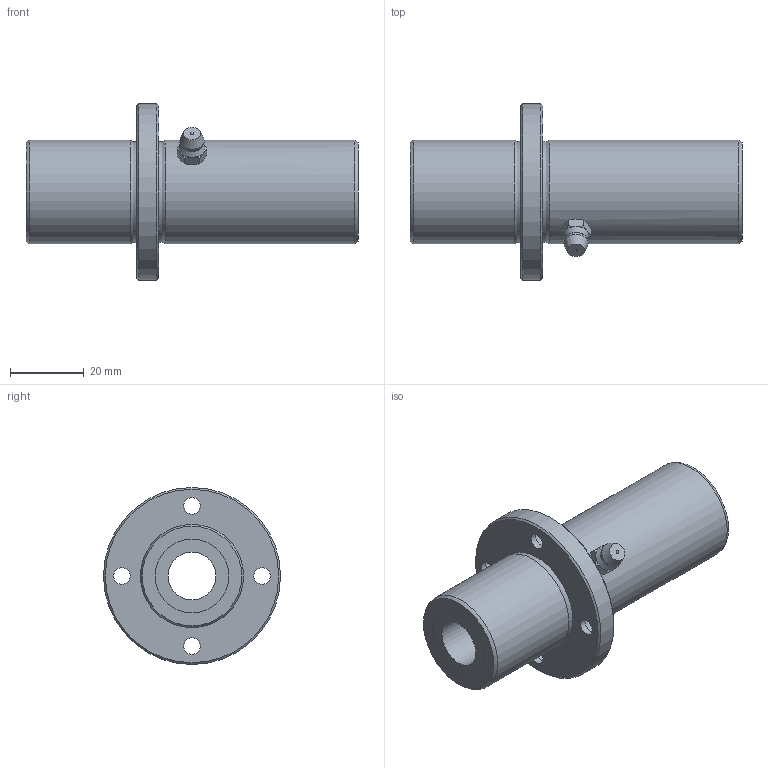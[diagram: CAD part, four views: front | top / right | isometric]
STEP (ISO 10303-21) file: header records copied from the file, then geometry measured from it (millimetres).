
FILE_DESCRIPTION((''),'2;1');
FILE_NAME('D:\製品 (図面)\カタログ用3D\リニアベアリング関連\STEP形式\LFLC\LFLC13.stp','2010-06-04T09:05:42',('Tsuchiya'),(''),'Autodesk Inventor 10','Autodesk Inventor 10','');
FILE_SCHEMA(('AUTOMOTIVE_DESIGN { 1 0 10303 214 1 1 1 1 }'));
Length unit declared in the file: millimetre
Products named in the file (1): LFLC13
Bounding box: 90 x 48 x 48 mm (x, y, z)
Volume: 49737.5 mm3; surface area: 15816.2 mm2
Topology: 1 solids, 1 shells, 59 faces, 117 edges, 70 vertices
Faces by surface type: plane 16, bspline 16, cone 15, cylinder 8, sphere 2, torus 2
Full cylindrical faces by diameter (mm): 13 x1, 20 x2, 28 x2, 48 x1
Entity records: 1803 total; most frequent: CARTESIAN_POINT 730, DIRECTION 210, ORIENTED_EDGE 184, EDGE_LOOP 104, AXIS2_PLACEMENT_3D 100, EDGE_CURVE 92, VERTEX_POINT 68, FACE_OUTER_BOUND 59
